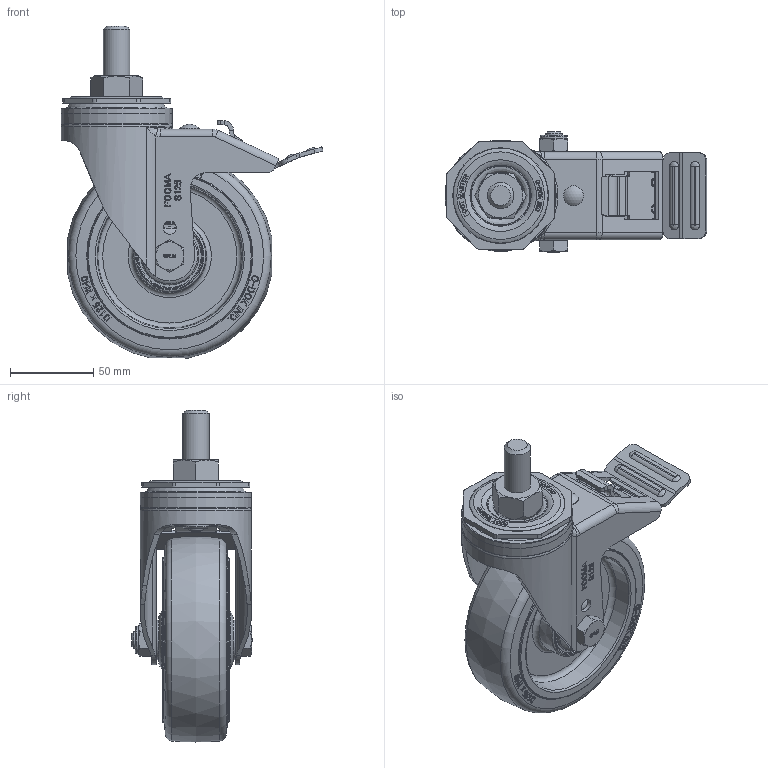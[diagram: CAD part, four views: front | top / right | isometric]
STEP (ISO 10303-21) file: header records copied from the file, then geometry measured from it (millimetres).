
FILE_DESCRIPTION(/* description */ (''),/* implementation_level */ '2;1');
FILE_NAME(/* name */ '\\192.168.10.38\지덕공유\1.기술연구소\2.연구개발 진행중\98.스테인레스캐스터 개발건_2023.10.26\제품설계\3D\홈페이지용\SPLM-125-BSS-HRD.stp',/* time_stamp */ '2025-02-20T06:54:49+09:00',/* author */ ('admin'),/* organization */ ('지덕산업'),/* preprocessor_version */ 'ST-DEVELOPER v18.1',/* originating_system */ 'Autodesk Inventor 2021',/* authorisation */ '');
FILE_SCHEMA (('CONFIG_CONTROL_DESIGN'));
Products named in the file (1): SPLM-125-BSS-HRD
Bounding box: 157.79 x 72.3 x 199.96 mm (x, y, z)
Volume: 478751.5 mm3; surface area: 103932.7 mm2
Topology: 1 solids, 1 shells, 1678 faces, 4435 edges, 2861 vertices
Faces by surface type: plane 748, bspline 530, cylinder 196, cone 123, torus 72, sphere 9
Full cylindrical faces by diameter (mm): 6 x1, 8 x2, 9 x1, 10 x2, 11 x1, 12 x1, 15.875 x1, 16 x2, 16.5 x1, 30 x1, 40.105 x1, 40.971 x1, 54 x1, 67 x1
Entity records: 56765 total; most frequent: CARTESIAN_POINT 19984, ORIENTED_EDGE 8846, DIRECTION 5794, EDGE_CURVE 4423, VERTEX_POINT 2861, LINE 2098, VECTOR 2098, AXIS2_PLACEMENT_3D 1848
